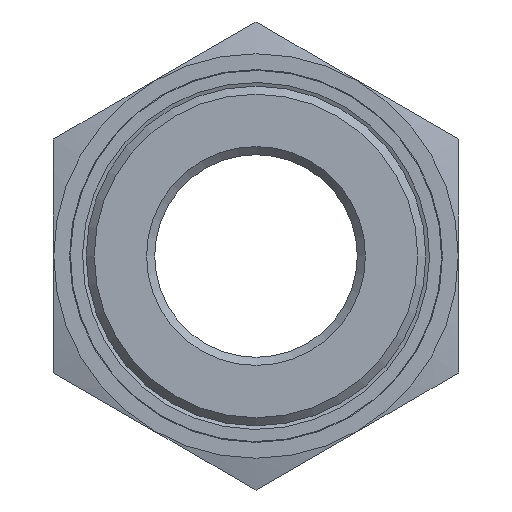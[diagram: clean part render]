
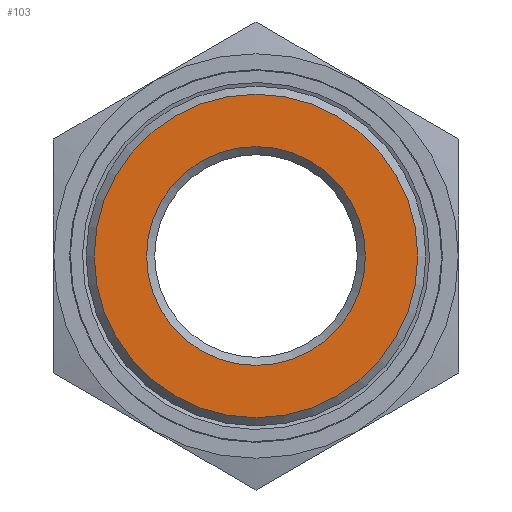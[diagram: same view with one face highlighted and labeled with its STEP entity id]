
A CAD part, left-side view. The second image highlights one B-rep face of the part: STEP entity #103.
In plain terms, the highlighted planar face has unit normal (-1, 0, 0).
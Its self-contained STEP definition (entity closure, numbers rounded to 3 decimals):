
#103 = ADVANCED_FACE( '', ( #213, #214 ), #215, .T. );
#213 = FACE_BOUND( '', #369, .T. );
#214 = FACE_OUTER_BOUND( '', #370, .T. );
#215 = PLANE( '', #371 );
#369 = EDGE_LOOP( '', ( #513 ) );
#370 = EDGE_LOOP( '', ( #514 ) );
#371 = AXIS2_PLACEMENT_3D( '', #515, #516, #517 );
#513 = ORIENTED_EDGE( '', *, *, #758, .T. );
#514 = ORIENTED_EDGE( '', *, *, #759, .T. );
#515 = CARTESIAN_POINT( '', ( -57., -25., -14.434 ) );
#516 = DIRECTION( '', ( -1., 0., 0. ) );
#517 = DIRECTION( '', ( 0., -1., 0. ) );
#758 = EDGE_CURVE( '', #843, #843, #844, .F. );
#759 = EDGE_CURVE( '', #845, #845, #846, .T. );
#843 = VERTEX_POINT( '', #970 );
#844 = CIRCLE( '', #971, 13.5 );
#845 = VERTEX_POINT( '', #972 );
#846 = CIRCLE( '', #973, 19.955 );
#970 = CARTESIAN_POINT( '', ( -57., -13.5, 0. ) );
#971 = AXIS2_PLACEMENT_3D( '', #1202, #1203, #1204 );
#972 = CARTESIAN_POINT( '', ( -57., -19.955, 0. ) );
#973 = AXIS2_PLACEMENT_3D( '', #1205, #1206, #1207 );
#1202 = CARTESIAN_POINT( '', ( -57., 0., 0. ) );
#1203 = DIRECTION( '', ( -1., 0., 0. ) );
#1204 = DIRECTION( '', ( 0., -1., 0. ) );
#1205 = CARTESIAN_POINT( '', ( -57., 0., 0. ) );
#1206 = DIRECTION( '', ( -1., 0., 0. ) );
#1207 = DIRECTION( '', ( 0., -1., 0. ) );
